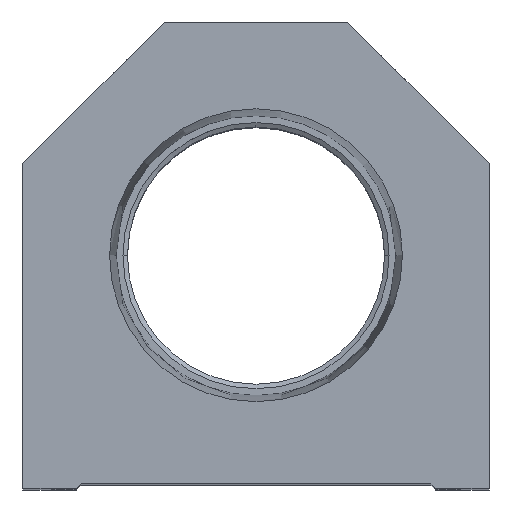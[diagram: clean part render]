
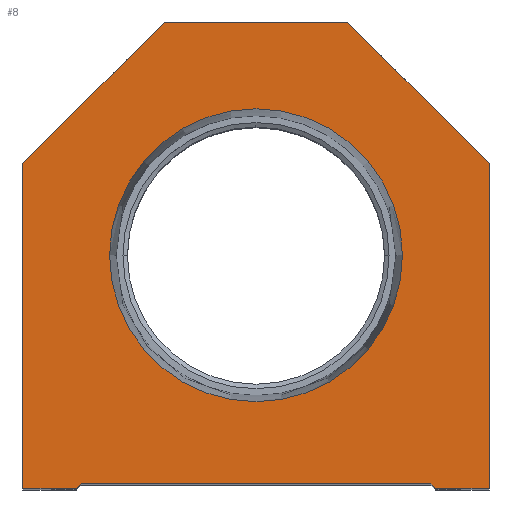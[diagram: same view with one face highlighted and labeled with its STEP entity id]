
A CAD part, top view. The second image highlights one B-rep face of the part: STEP entity #8.
In plain terms, the highlighted planar face has unit normal (0, 0, 1).
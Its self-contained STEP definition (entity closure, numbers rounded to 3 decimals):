
#8 = ADVANCED_FACE ( 'NONE', ( #12510, #13728 ), #8174, .T. ) ;
#30 = DIRECTION ( 'NONE',  ( 1., 0., 0. ) ) ;
#204 = ORIENTED_EDGE ( 'NONE', *, *, #11312, .T. ) ;
#248 = VERTEX_POINT ( 'NONE', #9036 ) ;
#330 = CARTESIAN_POINT ( 'NONE',  ( 9.775, 9.775, 0. ) ) ;
#408 = DIRECTION ( 'NONE',  ( 1., 0., 0. ) ) ;
#1164 = VERTEX_POINT ( 'NONE', #5069 ) ;
#1280 = ORIENTED_EDGE ( 'NONE', *, *, #9237, .T. ) ;
#1639 = LINE ( 'NONE', #1709, #10061 ) ;
#1709 = CARTESIAN_POINT ( 'NONE',  ( 25.4, 35.4, 0. ) ) ;
#1780 = DIRECTION ( 'NONE',  ( 1., 0., 0. ) ) ;
#1854 = VECTOR ( 'NONE', #30, 1000. ) ;
#2179 = ORIENTED_EDGE ( 'NONE', *, *, #2797, .T. ) ;
#2293 = EDGE_CURVE ( 'NONE', #5987, #248, #9793, .T. ) ;
#2326 = CARTESIAN_POINT ( 'NONE',  ( -25.4, 35.4, 0. ) ) ;
#2455 = ORIENTED_EDGE ( 'NONE', *, *, #5318, .T. ) ;
#2599 = ORIENTED_EDGE ( 'NONE', *, *, #13681, .T. ) ;
#2661 = AXIS2_PLACEMENT_3D ( 'NONE', #2991, #11977, #1780 ) ;
#2797 = EDGE_CURVE ( 'NONE', #8609, #5987, #8178, .T. ) ;
#2852 = CARTESIAN_POINT ( 'NONE',  ( -10., 50.8, 0. ) ) ;
#2991 = CARTESIAN_POINT ( 'NONE',  ( 0., 25.4, 0. ) ) ;
#2992 = VERTEX_POINT ( 'NONE', #7166 ) ;
#3144 = LINE ( 'NONE', #14622, #4650 ) ;
#3201 = CARTESIAN_POINT ( 'NONE',  ( -19.05, 0.5, 0. ) ) ;
#3507 = DIRECTION ( 'NONE',  ( 1., 0., 0. ) ) ;
#3620 = CARTESIAN_POINT ( 'NONE',  ( 25.4, 0., 0. ) ) ;
#3689 = LINE ( 'NONE', #5925, #8179 ) ;
#3707 = LINE ( 'NONE', #330, #12862 ) ;
#3897 = LINE ( 'NONE', #9828, #9410 ) ;
#4160 = VERTEX_POINT ( 'NONE', #2326 ) ;
#4228 = CIRCLE ( 'NONE', #2661, 15.947 ) ;
#4650 = VECTOR ( 'NONE', #12202, 1000. ) ;
#4676 = DIRECTION ( 'NONE',  ( 0., -1., 0. ) ) ;
#4775 = AXIS2_PLACEMENT_3D ( 'NONE', #4900, #12801, #408 ) ;
#4900 = CARTESIAN_POINT ( 'NONE',  ( 0., 25.4, 0. ) ) ;
#4902 = DIRECTION ( 'NONE',  ( 0.707, -0.707, 0. ) ) ;
#5069 = CARTESIAN_POINT ( 'NONE',  ( -15.947, 25.4, 0. ) ) ;
#5221 = VERTEX_POINT ( 'NONE', #2852 ) ;
#5318 = EDGE_CURVE ( 'NONE', #13876, #8227, #3144, .T. ) ;
#5494 = CARTESIAN_POINT ( 'NONE',  ( -19.05, 0.5, 0. ) ) ;
#5617 = DIRECTION ( 'NONE',  ( -1., 0., 0. ) ) ;
#5709 = LINE ( 'NONE', #10244, #1854 ) ;
#5925 = CARTESIAN_POINT ( 'NONE',  ( 25.4, 0., 0. ) ) ;
#5987 = VERTEX_POINT ( 'NONE', #3201 ) ;
#5999 = VERTEX_POINT ( 'NONE', #14320 ) ;
#6918 = ORIENTED_EDGE ( 'NONE', *, *, #7322, .F. ) ;
#7061 = DIRECTION ( 'NONE',  ( 0., 0., 1. ) ) ;
#7166 = CARTESIAN_POINT ( 'NONE',  ( 15.947, 25.4, 0. ) ) ;
#7322 = EDGE_CURVE ( 'NONE', #1164, #2992, #12612, .T. ) ;
#7837 = EDGE_CURVE ( 'NONE', #248, #13876, #3707, .T. ) ;
#7988 = CARTESIAN_POINT ( 'NONE',  ( 10., 50.8, 0. ) ) ;
#8101 = EDGE_CURVE ( 'NONE', #13243, #8609, #5709, .T. ) ;
#8174 = PLANE ( 'NONE',  #8774 ) ;
#8178 = LINE ( 'NONE', #10422, #12298 ) ;
#8179 = VECTOR ( 'NONE', #11702, 1000. ) ;
#8227 = VERTEX_POINT ( 'NONE', #3620 ) ;
#8377 = LINE ( 'NONE', #10617, #11442 ) ;
#8520 = CARTESIAN_POINT ( 'NONE',  ( 19.55, 0., 0. ) ) ;
#8534 = CARTESIAN_POINT ( 'NONE',  ( -25.4, 0., 0. ) ) ;
#8543 = ORIENTED_EDGE ( 'NONE', *, *, #8101, .T. ) ;
#8595 = EDGE_CURVE ( 'NONE', #5221, #4160, #3897, .T. ) ;
#8609 = VERTEX_POINT ( 'NONE', #14351 ) ;
#8714 = VECTOR ( 'NONE', #13479, 1000. ) ;
#8774 = AXIS2_PLACEMENT_3D ( 'NONE', #9367, #7061, #3507 ) ;
#8918 = ORIENTED_EDGE ( 'NONE', *, *, #12611, .T. ) ;
#9036 = CARTESIAN_POINT ( 'NONE',  ( 19.05, 0.5, 0. ) ) ;
#9237 = EDGE_CURVE ( 'NONE', #5999, #5221, #14729, .T. ) ;
#9263 = ORIENTED_EDGE ( 'NONE', *, *, #2293, .T. ) ;
#9266 = ORIENTED_EDGE ( 'NONE', *, *, #10910, .F. ) ;
#9291 = ORIENTED_EDGE ( 'NONE', *, *, #8595, .T. ) ;
#9367 = CARTESIAN_POINT ( 'NONE',  ( 0., 0., 0. ) ) ;
#9410 = VECTOR ( 'NONE', #12990, 1000. ) ;
#9686 = DIRECTION ( 'NONE',  ( -0.707, 0.707, 0. ) ) ;
#9793 = LINE ( 'NONE', #5494, #8714 ) ;
#9815 = ORIENTED_EDGE ( 'NONE', *, *, #7837, .T. ) ;
#9828 = CARTESIAN_POINT ( 'NONE',  ( -25.4, 35.4, 0. ) ) ;
#10061 = VECTOR ( 'NONE', #9686, 1000. ) ;
#10244 = CARTESIAN_POINT ( 'NONE',  ( -19.05, 0., 0. ) ) ;
#10422 = CARTESIAN_POINT ( 'NONE',  ( -9.775, 9.775, 0. ) ) ;
#10617 = CARTESIAN_POINT ( 'NONE',  ( -25.4, 0., 0. ) ) ;
#10910 = EDGE_CURVE ( 'NONE', #2992, #1164, #4228, .T. ) ;
#11168 = VERTEX_POINT ( 'NONE', #14100 ) ;
#11312 = EDGE_CURVE ( 'NONE', #4160, #13243, #8377, .T. ) ;
#11442 = VECTOR ( 'NONE', #4676, 1000. ) ;
#11549 = VECTOR ( 'NONE', #5617, 1000. ) ;
#11702 = DIRECTION ( 'NONE',  ( 0., 1., 0. ) ) ;
#11977 = DIRECTION ( 'NONE',  ( 0., 0., 1. ) ) ;
#12202 = DIRECTION ( 'NONE',  ( 1., 0., 0. ) ) ;
#12298 = VECTOR ( 'NONE', #13952, 1000. ) ;
#12510 = FACE_BOUND ( 'NONE', #14404, .T. ) ;
#12611 = EDGE_CURVE ( 'NONE', #11168, #5999, #1639, .T. ) ;
#12612 = CIRCLE ( 'NONE', #4775, 15.947 ) ;
#12801 = DIRECTION ( 'NONE',  ( 0., 0., 1. ) ) ;
#12862 = VECTOR ( 'NONE', #4902, 1000. ) ;
#12973 = EDGE_LOOP ( 'NONE', ( #8543, #2179, #9263, #9815, #2455, #2599, #8918, #1280, #9291, #204 ) ) ;
#12990 = DIRECTION ( 'NONE',  ( -0.707, -0.707, 0. ) ) ;
#13243 = VERTEX_POINT ( 'NONE', #8534 ) ;
#13479 = DIRECTION ( 'NONE',  ( 1., 0., 0. ) ) ;
#13681 = EDGE_CURVE ( 'NONE', #8227, #11168, #3689, .T. ) ;
#13728 = FACE_OUTER_BOUND ( 'NONE', #12973, .T. ) ;
#13876 = VERTEX_POINT ( 'NONE', #8520 ) ;
#13952 = DIRECTION ( 'NONE',  ( 0.707, 0.707, 0. ) ) ;
#14100 = CARTESIAN_POINT ( 'NONE',  ( 25.4, 35.4, 0. ) ) ;
#14320 = CARTESIAN_POINT ( 'NONE',  ( 10., 50.8, 0. ) ) ;
#14351 = CARTESIAN_POINT ( 'NONE',  ( -19.55, 0., 0. ) ) ;
#14404 = EDGE_LOOP ( 'NONE', ( #9266, #6918 ) ) ;
#14622 = CARTESIAN_POINT ( 'NONE',  ( 19.05, 0., 0. ) ) ;
#14729 = LINE ( 'NONE', #7988, #11549 ) ;
